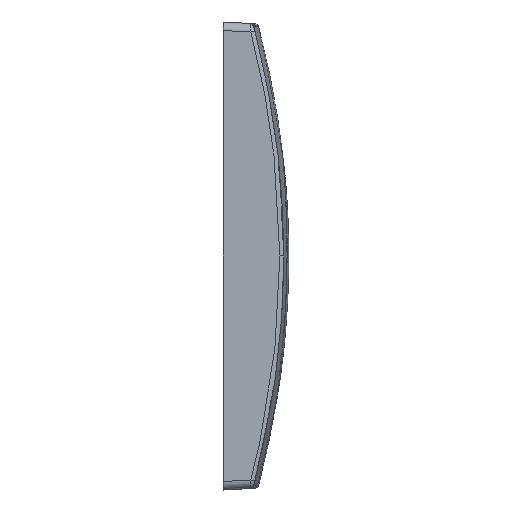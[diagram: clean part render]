
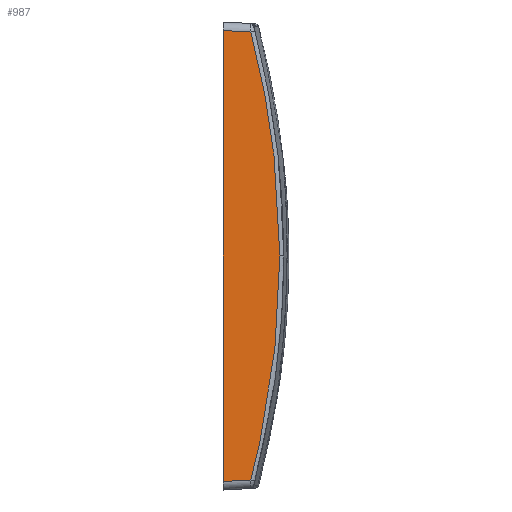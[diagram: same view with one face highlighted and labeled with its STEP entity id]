
A CAD part, left-side view. The second image highlights one B-rep face of the part: STEP entity #987.
In plain terms, the highlighted planar face has unit normal (-0.999, -0.052, 0).
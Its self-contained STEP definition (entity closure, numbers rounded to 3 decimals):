
#102=LINE('',#3519,#134);
#105=LINE('',#3812,#137);
#108=LINE('',#4563,#140);
#134=VECTOR('',#1149,1.);
#137=VECTOR('',#1178,10.);
#140=VECTOR('',#1197,10.);
#205=B_SPLINE_CURVE_WITH_KNOTS('',3,(#3981,#3982,#3983,#3984,#3985,#3986,
#3987,#3988,#3989,#3990,#3991,#3992,#3993,#3994,#3995,#3996,#3997,#3998,
#3999,#4000,#4001,#4002,#4003,#4004,#4005),.UNSPECIFIED.,.F.,.F.,(4,3,3,
3,3,3,3,3,4),(66.245,78.368,90.635,102.902,
114.724,126.42,138.049,149.575,159.099),
 .UNSPECIFIED.);
#206=B_SPLINE_CURVE_WITH_KNOTS('',5,(#4006,#4007,#4008,#4009,#4010,#4011),
 .UNSPECIFIED.,.F.,.F.,(6,6),(46.705,66.245),
 .UNSPECIFIED.);
#221=B_SPLINE_CURVE_WITH_KNOTS('',5,(#4545,#4546,#4547,#4548,#4549,#4550,
#4551,#4552,#4553,#4554,#4555,#4556,#4557,#4558,#4559,#4560,#4561,#4562),
 .UNSPECIFIED.,.F.,.F.,(6,3,3,3,3,6),(103.176,110.2,117.225,
131.274,159.372,215.568),.UNSPECIFIED.);
#265=FACE_OUTER_BOUND('',#320,.T.);
#320=EDGE_LOOP('',(#826,#827,#828,#829,#830,#831));
#417=VERTEX_POINT('',#3516);
#418=VERTEX_POINT('',#3518);
#437=VERTEX_POINT('',#3775);
#439=VERTEX_POINT('',#3951);
#440=VERTEX_POINT('',#3980);
#450=VERTEX_POINT('',#4544);
#537=EDGE_CURVE('',#418,#417,#102,.F.);
#560=EDGE_CURVE('',#437,#417,#105,.F.);
#565=EDGE_CURVE('',#439,#440,#205,.F.);
#566=EDGE_CURVE('',#440,#437,#206,.F.);
#586=EDGE_CURVE('',#450,#439,#221,.F.);
#587=EDGE_CURVE('',#418,#450,#108,.T.);
#826=ORIENTED_EDGE('',*,*,#537,.T.);
#827=ORIENTED_EDGE('',*,*,#560,.F.);
#828=ORIENTED_EDGE('',*,*,#566,.F.);
#829=ORIENTED_EDGE('',*,*,#565,.F.);
#830=ORIENTED_EDGE('',*,*,#586,.F.);
#831=ORIENTED_EDGE('',*,*,#587,.F.);
#899=PLANE('',#1070);
#987=ADVANCED_FACE('',(#265),#899,.T.);
#1070=AXIS2_PLACEMENT_3D('',#4543,#1195,#1196);
#1149=DIRECTION('',(0.,0.,1.));
#1178=DIRECTION('',(0.052,-0.997,0.052));
#1195=DIRECTION('center_axis',(-0.999,-0.052,0.));
#1196=DIRECTION('ref_axis',(0.,0.,
1.));
#1197=DIRECTION('',(0.052,-0.997,-0.052));
#3516=CARTESIAN_POINT('',(-123.,0.,-79.004));
#3518=CARTESIAN_POINT('',(-123.,0.,79.004));
#3519=CARTESIAN_POINT('',(-123.,0.,0.));
#3775=CARTESIAN_POINT('',(-122.492,-9.702,-78.496));
#3812=CARTESIAN_POINT('',(-123.,0.,-79.004));
#3951=CARTESIAN_POINT('',(-121.96,-19.85,0.));
#3980=CARTESIAN_POINT('',(-122.324,-12.9,-64.959));
#3981=CARTESIAN_POINT('Ctrl Pts',(-122.324,-12.9,-64.959));
#3982=CARTESIAN_POINT('Ctrl Pts',(-122.292,-13.5,-62.152));
#3983=CARTESIAN_POINT('Ctrl Pts',(-122.263,-14.063,-59.342));
#3984=CARTESIAN_POINT('Ctrl Pts',(-122.236,-14.587,-56.529));
#3985=CARTESIAN_POINT('Ctrl Pts',(-122.208,-15.117,-53.682));
#3986=CARTESIAN_POINT('Ctrl Pts',(-122.182,-15.608,-50.831));
#3987=CARTESIAN_POINT('Ctrl Pts',(-122.158,-16.059,-47.977));
#3988=CARTESIAN_POINT('Ctrl Pts',(-122.135,-16.51,-45.123));
#3989=CARTESIAN_POINT('Ctrl Pts',(-122.113,-16.921,-42.266));
#3990=CARTESIAN_POINT('Ctrl Pts',(-122.094,-17.292,-39.407));
#3991=CARTESIAN_POINT('Ctrl Pts',(-122.075,-17.65,-36.651));
#3992=CARTESIAN_POINT('Ctrl Pts',(-122.058,-17.97,-33.893));
#3993=CARTESIAN_POINT('Ctrl Pts',(-122.043,-18.254,-31.133));
#3994=CARTESIAN_POINT('Ctrl Pts',(-122.029,-18.534,-28.402));
#3995=CARTESIAN_POINT('Ctrl Pts',(-122.016,-18.777,-25.67));
#3996=CARTESIAN_POINT('Ctrl Pts',(-122.005,-18.983,-22.936));
#3997=CARTESIAN_POINT('Ctrl Pts',(-121.994,-19.189,-20.218));
#3998=CARTESIAN_POINT('Ctrl Pts',(-121.985,-19.358,-17.499));
#3999=CARTESIAN_POINT('Ctrl Pts',(-121.979,-19.49,-14.778));
#4000=CARTESIAN_POINT('Ctrl Pts',(-121.972,-19.622,-12.082));
#4001=CARTESIAN_POINT('Ctrl Pts',(-121.967,-19.717,-9.385));
#4002=CARTESIAN_POINT('Ctrl Pts',(-121.964,-19.776,-6.687));
#4003=CARTESIAN_POINT('Ctrl Pts',(-121.961,-19.825,-4.458));
#4004=CARTESIAN_POINT('Ctrl Pts',(-121.96,-19.85,-2.229));
#4005=CARTESIAN_POINT('Ctrl Pts',(-121.96,-19.85,0.));
#4006=CARTESIAN_POINT('Ctrl Pts',(-122.492,-9.702,-78.496));
#4007=CARTESIAN_POINT('Ctrl Pts',(-122.455,-10.4,-75.795));
#4008=CARTESIAN_POINT('Ctrl Pts',(-122.42,-11.069,-73.091));
#4009=CARTESIAN_POINT('Ctrl Pts',(-122.386,-11.709,-70.383));
#4010=CARTESIAN_POINT('Ctrl Pts',(-122.354,-12.319,-67.673));
#4011=CARTESIAN_POINT('Ctrl Pts',(-122.324,-12.9,-64.959));
#4543=CARTESIAN_POINT('Origin',(-123.,0.,0.));
#4544=CARTESIAN_POINT('',(-122.492,-9.702,78.496));
#4545=CARTESIAN_POINT('Ctrl Pts',(-121.96,-19.85,0.));
#4546=CARTESIAN_POINT('Ctrl Pts',(-121.96,-19.85,0.989));
#4547=CARTESIAN_POINT('Ctrl Pts',(-121.96,-19.846,1.972));
#4548=CARTESIAN_POINT('Ctrl Pts',(-121.96,-19.838,2.961));
#4549=CARTESIAN_POINT('Ctrl Pts',(-121.962,-19.814,4.933));
#4550=CARTESIAN_POINT('Ctrl Pts',(-121.964,-19.774,6.907));
#4551=CARTESIAN_POINT('Ctrl Pts',(-121.965,-19.75,7.893));
#4552=CARTESIAN_POINT('Ctrl Pts',(-121.969,-19.666,10.852));
#4553=CARTESIAN_POINT('Ctrl Pts',(-121.976,-19.545,13.81));
#4554=CARTESIAN_POINT('Ctrl Pts',(-121.981,-19.449,15.782));
#4555=CARTESIAN_POINT('Ctrl Pts',(-121.998,-19.113,21.696));
#4556=CARTESIAN_POINT('Ctrl Pts',(-122.023,-18.633,27.606));
#4557=CARTESIAN_POINT('Ctrl Pts',(-122.044,-18.249,31.543));
#4558=CARTESIAN_POINT('Ctrl Pts',(-122.114,-16.908,43.345));
#4559=CARTESIAN_POINT('Ctrl Pts',(-122.214,-14.999,55.11));
#4560=CARTESIAN_POINT('Ctrl Pts',(-122.294,-13.477,62.933));
#4561=CARTESIAN_POINT('Ctrl Pts',(-122.386,-11.71,70.729));
#4562=CARTESIAN_POINT('Ctrl Pts',(-122.492,-9.702,78.496));
#4563=CARTESIAN_POINT('',(-123.,0.,79.004));
